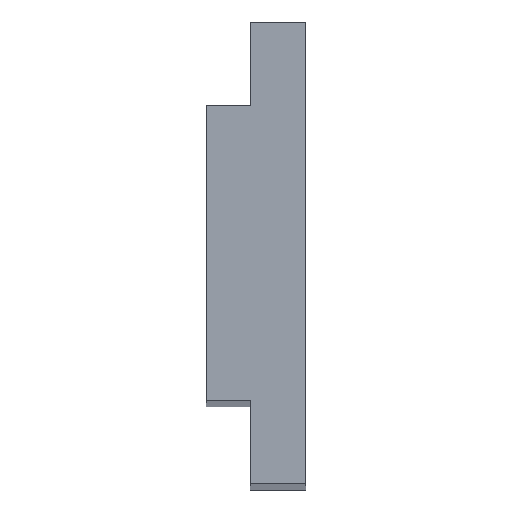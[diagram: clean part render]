
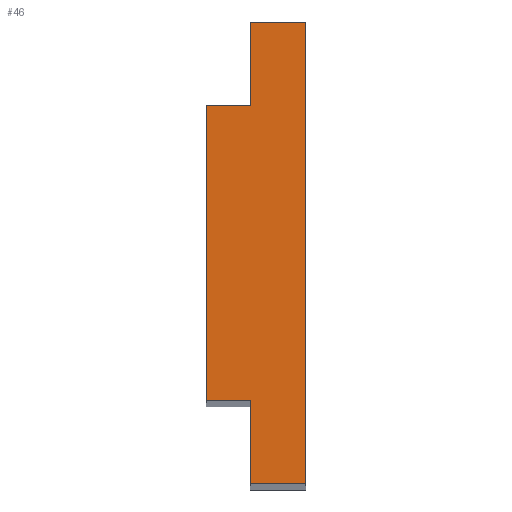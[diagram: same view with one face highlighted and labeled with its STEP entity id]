
A CAD part, top view. The second image highlights one B-rep face of the part: STEP entity #46.
In plain terms, the highlighted planar face has unit normal (0, 0, 1).
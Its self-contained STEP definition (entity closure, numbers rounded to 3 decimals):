
#32 = DIRECTION ( 'NONE',  ( 1., 0., 0. ) ) ;
#46 = ADVANCED_FACE ( 'NONE', ( #1944 ), #1924, .T. ) ;
#71 = DIRECTION ( 'NONE',  ( 0., -1., 0. ) ) ;
#129 = CARTESIAN_POINT ( 'NONE',  ( -3., -16., 420. ) ) ;
#148 = CARTESIAN_POINT ( 'NONE',  ( 3., -25., 420. ) ) ;
#170 = ORIENTED_EDGE ( 'NONE', *, *, #373, .T. ) ;
#184 = ORIENTED_EDGE ( 'NONE', *, *, #1238, .T. ) ;
#197 = EDGE_CURVE ( 'NONE', #1486, #1572, #2650, .T. ) ;
#260 = CARTESIAN_POINT ( 'NONE',  ( 0., -16., 420. ) ) ;
#264 = VERTEX_POINT ( 'NONE', #2062 ) ;
#301 = LINE ( 'NONE', #1372, #1998 ) ;
#338 = EDGE_LOOP ( 'NONE', ( #949, #2636, #170, #2212, #184, #3324, #1530, #1735 ) ) ;
#373 = EDGE_CURVE ( 'NONE', #1486, #3175, #921, .T. ) ;
#434 = VECTOR ( 'NONE', #1558, 1000. ) ;
#455 = EDGE_CURVE ( 'NONE', #1572, #1532, #301, .T. ) ;
#519 = CARTESIAN_POINT ( 'NONE',  ( -3., 25., 420. ) ) ;
#550 = VECTOR ( 'NONE', #71, 1000. ) ;
#558 = EDGE_CURVE ( 'NONE', #264, #1532, #3233, .T. ) ;
#609 = DIRECTION ( 'NONE',  ( 0., 0., 1. ) ) ;
#630 = CARTESIAN_POINT ( 'NONE',  ( 3., 25., 420. ) ) ;
#644 = VECTOR ( 'NONE', #1646, 1000. ) ;
#755 = VECTOR ( 'NONE', #1201, 1000. ) ;
#796 = DIRECTION ( 'NONE',  ( 1., 0., 0. ) ) ;
#824 = VECTOR ( 'NONE', #796, 1000. ) ;
#885 = CARTESIAN_POINT ( 'NONE',  ( -3., 25., 420. ) ) ;
#921 = LINE ( 'NONE', #260, #824 ) ;
#949 = ORIENTED_EDGE ( 'NONE', *, *, #455, .F. ) ;
#975 = VERTEX_POINT ( 'NONE', #2992 ) ;
#980 = EDGE_CURVE ( 'NONE', #975, #2299, #2044, .T. ) ;
#1034 = CARTESIAN_POINT ( 'NONE',  ( -7.8, 16., 420. ) ) ;
#1081 = LINE ( 'NONE', #885, #550 ) ;
#1201 = DIRECTION ( 'NONE',  ( 0., -1., 0. ) ) ;
#1238 = EDGE_CURVE ( 'NONE', #3168, #2299, #1869, .T. ) ;
#1264 = VECTOR ( 'NONE', #2910, 1000. ) ;
#1372 = CARTESIAN_POINT ( 'NONE',  ( 0., 16., 420. ) ) ;
#1486 = VERTEX_POINT ( 'NONE', #2533 ) ;
#1515 = CARTESIAN_POINT ( 'NONE',  ( -7.8, 0., 420. ) ) ;
#1530 = ORIENTED_EDGE ( 'NONE', *, *, #1552, .F. ) ;
#1532 = VERTEX_POINT ( 'NONE', #1844 ) ;
#1552 = EDGE_CURVE ( 'NONE', #264, #975, #2810, .T. ) ;
#1558 = DIRECTION ( 'NONE',  ( 0., 1., 0. ) ) ;
#1572 = VERTEX_POINT ( 'NONE', #1034 ) ;
#1632 = DIRECTION ( 'NONE',  ( 1., 0., 0. ) ) ;
#1646 = DIRECTION ( 'NONE',  ( 0., -1., 0. ) ) ;
#1735 = ORIENTED_EDGE ( 'NONE', *, *, #558, .T. ) ;
#1844 = CARTESIAN_POINT ( 'NONE',  ( -3., 16., 420. ) ) ;
#1869 = LINE ( 'NONE', #1919, #2406 ) ;
#1919 = CARTESIAN_POINT ( 'NONE',  ( -3., -25., 420. ) ) ;
#1924 = PLANE ( 'NONE',  #3289 ) ;
#1944 = FACE_OUTER_BOUND ( 'NONE', #338, .T. ) ;
#1998 = VECTOR ( 'NONE', #1632, 1000. ) ;
#2044 = LINE ( 'NONE', #630, #644 ) ;
#2062 = CARTESIAN_POINT ( 'NONE',  ( -3., 25., 420. ) ) ;
#2104 = EDGE_CURVE ( 'NONE', #3175, #3168, #1081, .T. ) ;
#2212 = ORIENTED_EDGE ( 'NONE', *, *, #2104, .T. ) ;
#2243 = CARTESIAN_POINT ( 'NONE',  ( -3., -25., 420. ) ) ;
#2299 = VERTEX_POINT ( 'NONE', #148 ) ;
#2406 = VECTOR ( 'NONE', #32, 1000. ) ;
#2533 = CARTESIAN_POINT ( 'NONE',  ( -7.8, -16., 420. ) ) ;
#2636 = ORIENTED_EDGE ( 'NONE', *, *, #197, .F. ) ;
#2650 = LINE ( 'NONE', #1515, #434 ) ;
#2671 = DIRECTION ( 'NONE',  ( 1., 0., 0. ) ) ;
#2683 = CARTESIAN_POINT ( 'NONE',  ( 0., 0., 420. ) ) ;
#2810 = LINE ( 'NONE', #519, #1264 ) ;
#2910 = DIRECTION ( 'NONE',  ( 1., 0., 0. ) ) ;
#2992 = CARTESIAN_POINT ( 'NONE',  ( 3., 25., 420. ) ) ;
#3168 = VERTEX_POINT ( 'NONE', #2243 ) ;
#3175 = VERTEX_POINT ( 'NONE', #129 ) ;
#3233 = LINE ( 'NONE', #3269, #755 ) ;
#3269 = CARTESIAN_POINT ( 'NONE',  ( -3., 25., 420. ) ) ;
#3289 = AXIS2_PLACEMENT_3D ( 'NONE', #2683, #609, #2671 ) ;
#3324 = ORIENTED_EDGE ( 'NONE', *, *, #980, .F. ) ;
